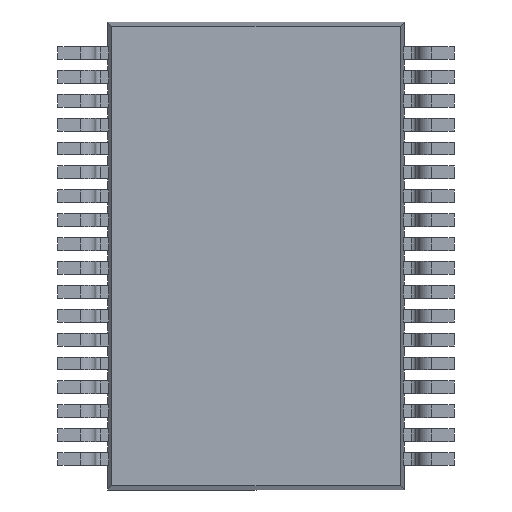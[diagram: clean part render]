
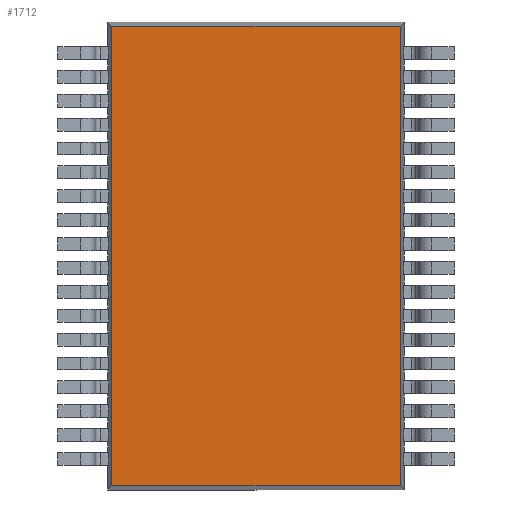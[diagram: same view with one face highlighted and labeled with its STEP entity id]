
A CAD part, front view. The second image highlights one B-rep face of the part: STEP entity #1712.
In plain terms, the highlighted planar face has unit normal (0, -1, 0).
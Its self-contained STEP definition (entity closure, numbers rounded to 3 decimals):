
#1712 = ADVANCED_FACE ( 'NONE', ( #2080 ), #17211, .F. ) ;
#2080 = FACE_OUTER_BOUND ( 'NONE', #10757, .T. ) ;
#2398 = LINE ( 'NONE', #22418, #2404 ) ;
#2404 = VECTOR ( 'NONE', #22420, 1000. ) ;
#2406 = LINE ( 'NONE', #22422, #2412 ) ;
#2412 = VECTOR ( 'NONE', #22423, 1000. ) ;
#6639 = AXIS2_PLACEMENT_3D ( 'NONE', #17212, #17217, #17218 ) ;
#7360 = VECTOR ( 'NONE', #21284, 1000. ) ;
#7363 = LINE ( 'NONE', #21283, #7360 ) ;
#7410 = VECTOR ( 'NONE', #21226, 1000. ) ;
#7453 = LINE ( 'NONE', #21101, #7410 ) ;
#10622 = ORIENTED_EDGE ( 'NONE', *, *, #22681, .T. ) ;
#10623 = ORIENTED_EDGE ( 'NONE', *, *, #22954, .T. ) ;
#10624 = ORIENTED_EDGE ( 'NONE', *, *, #22679, .T. ) ;
#10625 = ORIENTED_EDGE ( 'NONE', *, *, #22981, .T. ) ;
#10757 = EDGE_LOOP ( 'NONE', ( #10622, #10623, #10624, #10625 ) ) ;
#11415 = VERTEX_POINT ( 'NONE', #18139 ) ;
#11443 = VERTEX_POINT ( 'NONE', #18167 ) ;
#11447 = VERTEX_POINT ( 'NONE', #18171 ) ;
#11533 = VERTEX_POINT ( 'NONE', #18257 ) ;
#17211 = PLANE ( 'NONE',  #6639 ) ;
#17212 = CARTESIAN_POINT ( 'NONE',  ( 0., 0.1, 0. ) ) ;
#17217 = DIRECTION ( 'NONE',  ( 0., 1., 0. ) ) ;
#17218 = DIRECTION ( 'NONE',  ( 0., 0., 1. ) ) ;
#18139 = CARTESIAN_POINT ( 'NONE',  ( 3.016, 0.1, 4.816 ) ) ;
#18167 = CARTESIAN_POINT ( 'NONE',  ( -3.016, 0.1, -4.816 ) ) ;
#18171 = CARTESIAN_POINT ( 'NONE',  ( -3.016, 0.1, 4.816 ) ) ;
#18257 = CARTESIAN_POINT ( 'NONE',  ( 3.016, 0.1, -4.816 ) ) ;
#21101 = CARTESIAN_POINT ( 'NONE',  ( 3.1, 0.1, -4.816 ) ) ;
#21226 = DIRECTION ( 'NONE',  ( 1., 0., 0. ) ) ;
#21283 = CARTESIAN_POINT ( 'NONE',  ( 3.1, 0.1, 4.816 ) ) ;
#21284 = DIRECTION ( 'NONE',  ( -1., 0., 0. ) ) ;
#22418 = CARTESIAN_POINT ( 'NONE',  ( 3.016, 0.1, 4.9 ) ) ;
#22420 = DIRECTION ( 'NONE',  ( 0., 0., 1. ) ) ;
#22422 = CARTESIAN_POINT ( 'NONE',  ( -3.016, 0.1, 4.9 ) ) ;
#22423 = DIRECTION ( 'NONE',  ( 0., 0., -1. ) ) ;
#22679 = EDGE_CURVE ( 'NONE', #11533, #11415, #2398, .T. ) ;
#22681 = EDGE_CURVE ( 'NONE', #11447, #11443, #2406, .T. ) ;
#22954 = EDGE_CURVE ( 'NONE', #11443, #11533, #7453, .T. ) ;
#22981 = EDGE_CURVE ( 'NONE', #11415, #11447, #7363, .T. ) ;
